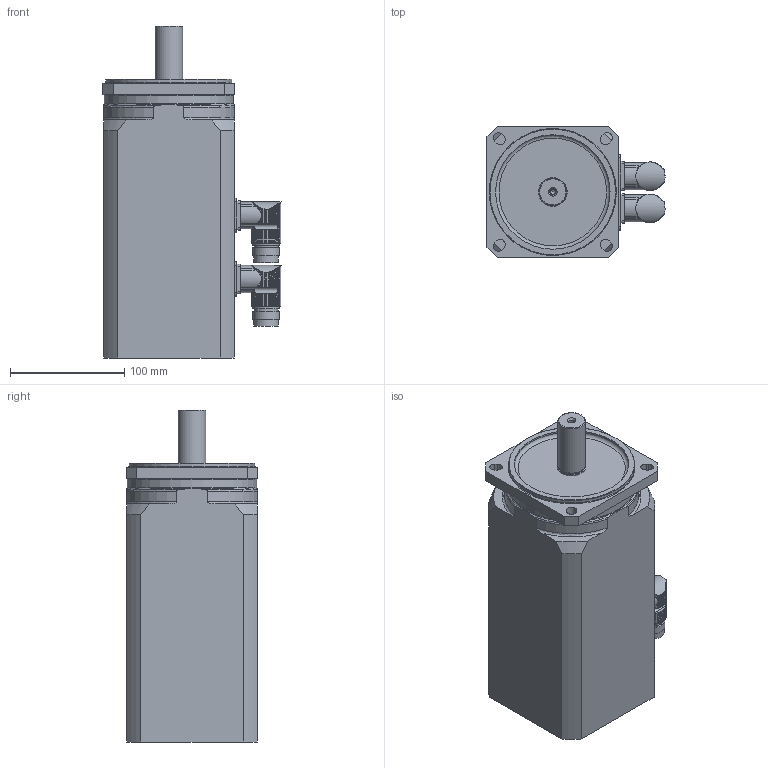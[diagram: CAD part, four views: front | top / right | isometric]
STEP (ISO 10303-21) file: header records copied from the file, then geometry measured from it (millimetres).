
FILE_DESCRIPTION(/* description */ (''),/* implementation_level */ '2;1');
FILE_NAME(/* name */ 'MR 7442-Ux-Nxxx-G##-A0D-MS',/* time_stamp */ '2007-07-13T09:50:00+01:00',/* author */ (''),/* organization */ ('ESR Pollmeier GmbH'),/* preprocessor_version */ 'ST-DEVELOPER v8',/* originating_system */ 'UNIGRAPHICS SOLUTIONS - UNIGRAPHICS 18.0',/* authorisation */ '');
FILE_SCHEMA (('AUTOMOTIVE_DESIGN { 1 2 10303 214 0 1 1 1 }'));
Length unit declared in the file: millimetre
Products named in the file (3): Winkelflanschdose_0; Rotor_SY4_0; MR7442-Ux-Nxxx-G##-A0D-MS_0
Assembly tree (3 placements, depth 2):
  MR7442-Ux-Nxxx-G##-A0D-MS_0
    Rotor_SY4_0
    Winkelflanschdose_0  x2
Bounding box: 155.49 x 115 x 290 mm (x, y, z)
Volume: 3104442.8 mm3; surface area: 156319.2 mm2
Topology: 4 solids, 4 shells, 427 faces, 1192 edges, 791 vertices
Faces by surface type: cylinder 320, plane 82, torus 15, cone 10
Full cylindrical faces by diameter (mm): 4.351 x1, 5.5 x1, 16 x2, 21 x2, 21.5 x2, 23 x4, 23.52 x1, 24 x1, 25 x1, 100 x1, 110 x1, 113 x1
Entity records: 8893 total; most frequent: CARTESIAN_POINT 2301, ORIENTED_EDGE 1382, DIRECTION 1304, EDGE_CURVE 691, AXIS2_PLACEMENT_3D 514, VERTEX_POINT 473, EDGE_LOOP 309, LINE 276
